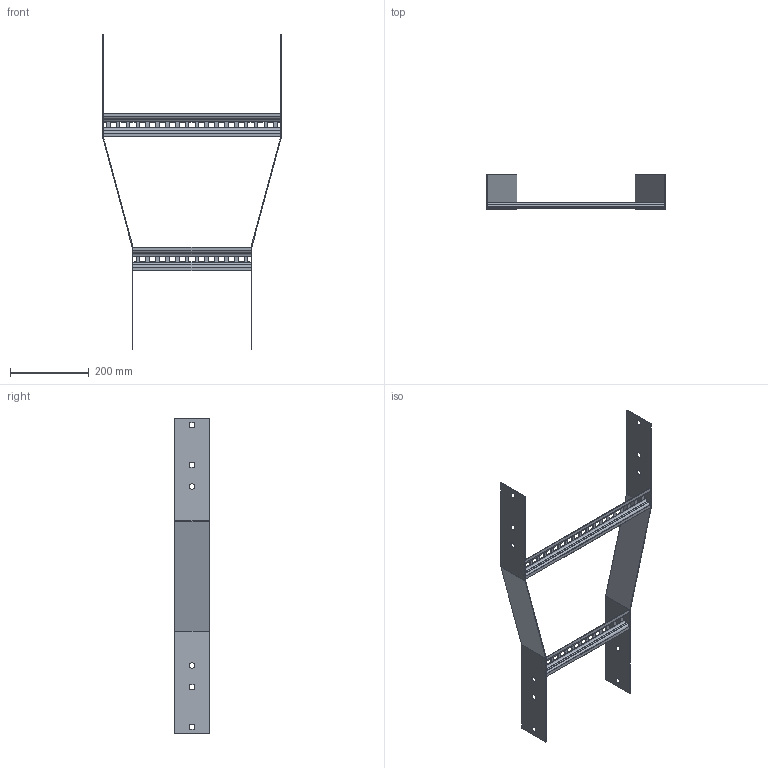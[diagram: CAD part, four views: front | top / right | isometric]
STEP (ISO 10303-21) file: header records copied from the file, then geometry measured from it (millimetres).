
FILE_DESCRIPTION (( 'STEP AP203' ), '1' );
FILE_NAME ('N2 SR450300.STEP', '2024-08-27T22:23:41', ( '' ), ( '' ), 'SwSTEP 2.0', 'SolidWorks 2023', '' );
FILE_SCHEMA (( 'CONFIG_CONTROL_DESIGN' ));
Length unit declared in the file: millimetre
Products named in the file (4): N2 Reducer side plate_SR300x450; Ladder Rung_Ladder Rung -  450mm; Ladder Rung_Ladder Rung -  300mm; N2 SR450300
Assembly tree (4 placements, depth 2):
  N2 SR450300
    N2 Reducer side plate_SR300x450  x2
    Ladder Rung_Ladder Rung -  300mm
    Ladder Rung_Ladder Rung -  450mm
Bounding box: 454 x 87 x 800 mm (x, y, z)
Volume: 358328.9 mm3; surface area: 392208.4 mm2
Topology: 4 solids, 4 shells, 288 faces, 744 edges, 464 vertices
Faces by surface type: plane 256, cylinder 32
Entity records: 7894 total; most frequent: CARTESIAN_POINT 1293, ORIENTED_EDGE 1280, DIRECTION 1194, EDGE_CURVE 640, VECTOR 592, LINE 592, VERTEX_POINT 400, EDGE_LOOP 314
